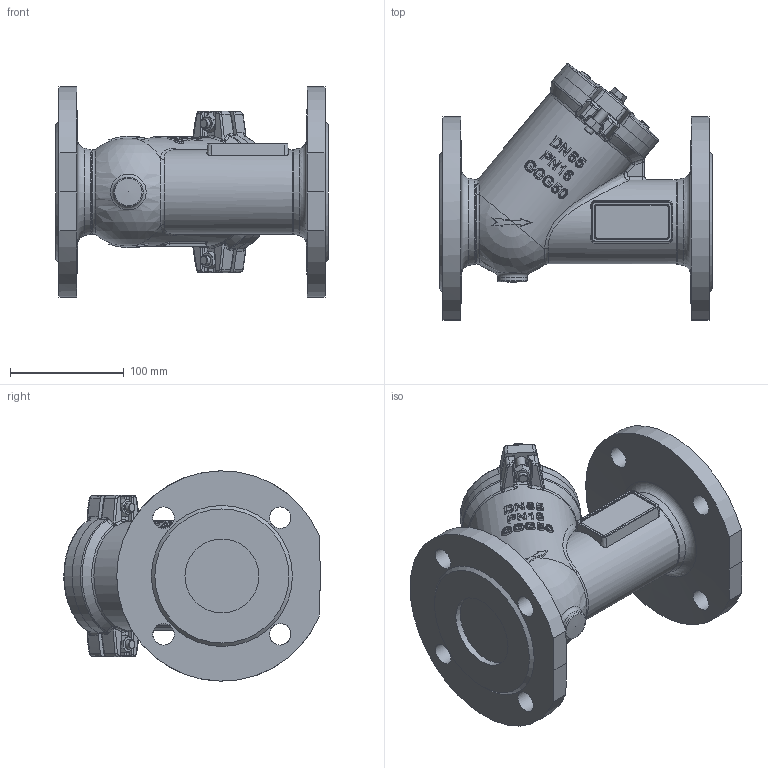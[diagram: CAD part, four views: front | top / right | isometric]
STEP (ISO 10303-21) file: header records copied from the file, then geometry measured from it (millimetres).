
FILE_DESCRIPTION (( 'STEP AP214' ), '1' );
FILE_NAME ('DN65.STEP', '2026-09-14T13:49:51', ( '' ), ( '' ), 'SwSTEP 2.0', 'SolidWorks 2024', '' );
FILE_SCHEMA (( 'AUTOMOTIVE_DESIGN' ));
Length unit declared in the file: millimetre
Products named in the file (1): DN65
Bounding box: 240 x 225.63 x 184.99 mm (x, y, z)
Volume: 2637373.3 mm3; surface area: 221542.8 mm2
Topology: 3 solids, 9 shells, 1037 faces, 2708 edges, 1725 vertices
Faces by surface type: bspline 654, plane 142, cylinder 138, cone 54, sphere 25, torus 24
Full cylindrical faces by diameter (mm): 8 x4, 9 x2, 16 x2, 19 x8, 26 x1, 65 x2, 74 x1, 106 x1
Entity records: 63012 total; most frequent: CARTESIAN_POINT 33478, ORIENTED_EDGE 5232, EDGE_CURVE 2616, B_SPLINE_CURVE_WITH_KNOTS 1890, DIRECTION 1742, VERTEX_POINT 1692, EDGE_LOOP 1156, FACE_OUTER_BOUND 1065
